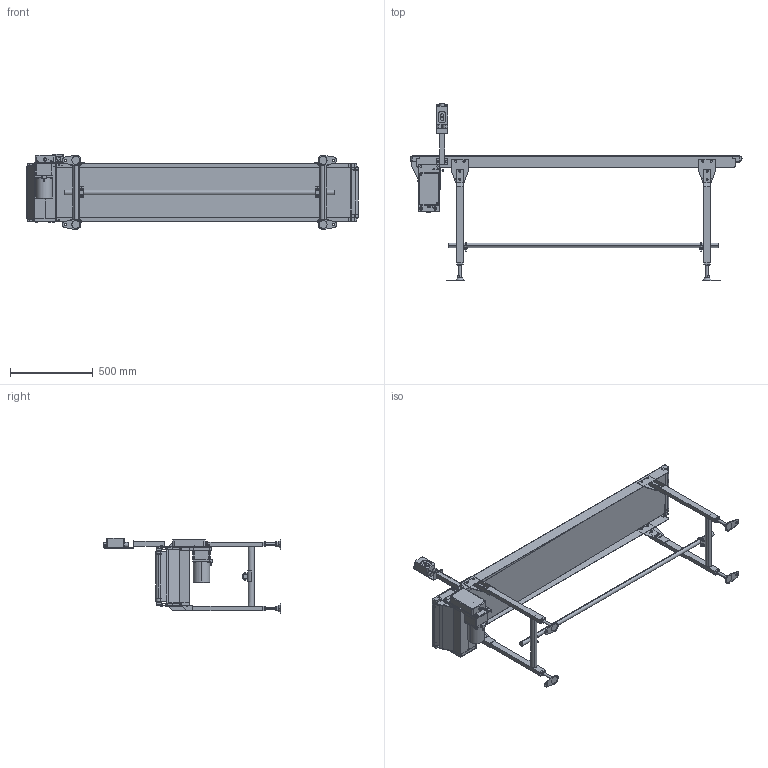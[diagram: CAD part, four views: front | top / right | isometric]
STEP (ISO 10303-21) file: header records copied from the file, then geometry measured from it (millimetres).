
FILE_DESCRIPTION( (''), '2;1');
FILE_NAME ('FSD-EUD-309-300-200-L-K-60.stp','2025-01-30T16:59:57',(''),(''),'spGate 20.6.2 (****-****-****-****)','','');
FILE_SCHEMA (('AUTOMOTIVE_DESIGN'));
Length unit declared in the file: millimetre
Products named in the file (59): NewModel; TEMP_X_T-prt0; TEMP_X_T-prt1; TEMP_X_T-prt2; TEMP_X_T-prt3; TEMP_X_T-prt4; TEMP_X_T-prt5; TEMP_X_T-prt6; TEMP_X_T-prt7; TEMP_X_T-prt8; TEMP_X_T-prt9; TEMP_X_T-prt10; TEMP_X_T-prt11; TEMP_X_T-prt12; TEMP_X_T-prt13; TEMP_X_T-prt14; TEMP_X_T-prt15; TEMP_X_T-prt16; TEMP_X_T-prt17; TEMP_X_T-prt18; TEMP_X_T-prt19; TEMP_X_T-prt20; TEMP_X_T-prt21; TEMP_X_T-prt22; TEMP_X_T-prt23; TEMP_X_T-prt24; TEMP_X_T-prt25; TEMP_X_T-prt26; TEMP_X_T-prt27; TEMP_X_T-prt28; TEMP_X_T-prt29; TEMP_X_T-prt30; TEMP_X_T-prt31; TEMP_X_T-prt32; TEMP_X_T-prt33; TEMP_X_T-prt34; TEMP_X_T-prt35; TEMP_X_T-prt36; TEMP_X_T-prt37; TEMP_X_T-prt38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
Assembly tree (58 placements, depth 2):
  NewModel
    TEMP_X_T-prt0
    TEMP_X_T-prt1
    TEMP_X_T-prt2
    TEMP_X_T-prt3
    TEMP_X_T-prt4
    TEMP_X_T-prt5
    TEMP_X_T-prt6
    TEMP_X_T-prt7
    TEMP_X_T-prt8
    TEMP_X_T-prt9
    TEMP_X_T-prt10
    TEMP_X_T-prt11
    TEMP_X_T-prt12
    TEMP_X_T-prt13
    TEMP_X_T-prt14
    TEMP_X_T-prt15
    TEMP_X_T-prt16
    TEMP_X_T-prt17
    TEMP_X_T-prt18
    TEMP_X_T-prt19
    TEMP_X_T-prt20
    TEMP_X_T-prt21
    TEMP_X_T-prt22
    TEMP_X_T-prt23
    TEMP_X_T-prt24
    TEMP_X_T-prt25
    TEMP_X_T-prt26
    TEMP_X_T-prt27
    TEMP_X_T-prt28
    TEMP_X_T-prt29
    TEMP_X_T-prt30
    TEMP_X_T-prt31
    TEMP_X_T-prt32
    TEMP_X_T-prt33
    TEMP_X_T-prt34
    TEMP_X_T-prt35
    TEMP_X_T-prt36
    TEMP_X_T-prt37
    TEMP_X_T-prt38
    TEMP_X_T-prt39
    TEMP_X_T-prt40
    TEMP_X_T-prt41
    TEMP_X_T-prt42
    TEMP_X_T-prt43
    TEMP_X_T-prt44
    TEMP_X_T-prt45
    TEMP_X_T-prt46
    TEMP_X_T-prt47
    TEMP_X_T-prt48
    TEMP_X_T-prt49
    TEMP_X_T-prt50
    TEMP_X_T-prt51
    TEMP_X_T-prt52
    TEMP_X_T-prt53
    TEMP_X_T-prt54
    TEMP_X_T-prt55
    TEMP_X_T-prt56
    TEMP_X_T-prt57
Bounding box: 2001.4 x 1069.5 x 452.6 mm (x, y, z)
Volume: 18479963.6 mm3; surface area: 6365008.1 mm2
Topology: 58 solids, 58 shells, 2012 faces, 4861 edges, 3153 vertices
Faces by surface type: plane 1326, cylinder 580, bspline 106
Entity records: 101121 total; most frequent: CARTESIAN_POINT 12793, ORIENTED_EDGE 9690, DIRECTION 9669, COLOUR_RGB 6915, PRESENTATION_STYLE_ASSIGNMENT 6915, STYLED_ITEM 6915, EDGE_CURVE 4845, DRAUGHTING_PRE_DEFINED_CURVE_FONT 4845
